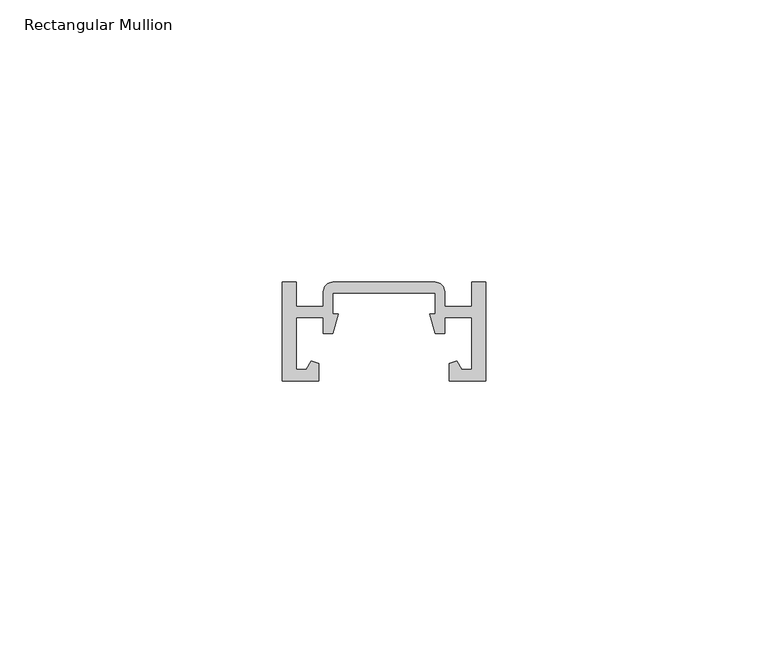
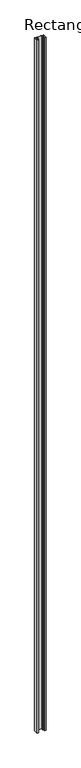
"""IFC4 building model written with IfcOpenShell, lengths in millimetres: member geometry, Rectangular Mullion : NLRS_21_CWM_drager LD.0195 - rechts_Storax."""

from ifc_helpers import new_model, si_unit, point, frame, frame_2d, origin, place, context, project, spatial, polyline, circle_curve, trimmed, segment, composite_curve, outline, extrude, source, transform, mapped, element, save


def rectangular_mullion_aa1047c5(model_context):
    return source(origin(), model_context, "Body", "SweptSolid", [
        extrude(outline(composite_curve([segment(polyline([(-86.0, -1.0), (-83.5290062, -1.0), (-83.5290062, -5.3142835), (-78.7447259, -5.3142835), (-78.7447259, -2.6869285)]), True, "CONTINUOUS"), segment(trimmed(circle_curve(frame_2d((-77.0577975, -2.6869285)), 1.6869285), [point((-78.7447259, -2.6869285))], [point((-77.0577975, -1.0))], False, "CARTESIAN"), True, "CONTINUOUS"), segment(polyline([(-77.0577975, -1.0), (-58.9422025, -1.0)]), True, "CONTINUOUS"), segment(trimmed(circle_curve(frame_2d((-58.9422025, -2.6869285)), 1.6869285), [point((-58.9422025, -1.0))], [point((-57.2552741, -2.6869285))], False, "CARTESIAN"), True, "CONTINUOUS"), segment(polyline([(-57.2552741, -2.6869285), (-57.2552741, -5.3142835), (-52.4709938, -5.3142835), (-52.4709938, -1.0), (-50.0, -1.0), (-50.0, -18.5), (-56.4409991, -18.5), (-56.4409991, -15.3784461), (-55.1292819, -14.9977014), (-54.2747906, -16.4777239), (-52.4709938, -16.4777239), (-52.4709938, -7.3100862), (-57.2552741, -7.3100862), (-57.2552741, -10.0899542), (-58.9422025, -10.0899542), (-59.9422025, -6.6448186), (-58.9422025, -6.6448186), (-58.9422025, -2.9178188), (-77.0577975, -2.9178188), (-77.0577975, -6.6448186), (-76.0577975, -6.6448186), (-77.0577975, -10.0899542), (-78.7447259, -10.0899542), (-78.7447259, -7.3100862), (-83.5290062, -7.3100862), (-83.5290062, -16.4777239), (-81.7252094, -16.4777239), (-80.8707181, -14.9977014), (-79.5590009, -15.3784461), (-79.5590009, -18.5), (-86.0, -18.5), (-86.0, -1.0)]), True, "CONTINUOUS")], self_intersect=False)), frame((0.0, 0.0, -3000.0), z_axis=(0.0, 0.0, 1.0), x_axis=(1.0, 0.0, 0.0)), (0.0, 0.0, 1.0), 3000.0),
    ])


if __name__ == "__main__":
    model = new_model("IFC4")
    model_context = context("Model", 3, world=origin())
    ifc_project = project(units=[si_unit("LENGTHUNIT", "METRE", prefix="MILLI")], contexts=[model_context])
    site = spatial("IfcSite", under=ifc_project)
    building = spatial("IfcBuilding", under=site)
    placement = place(None, origin())
    rectangular_mullion_shape = rectangular_mullion_aa1047c5(model_context)
    element("IfcMember", 1, ObjectType="Rectangular Mullion : NLRS_21_CWM_drager LD.0195 - rechts_Storax", at=placement, inside=building, context=model_context, shape_type="MappedRepresentation", body=[
        mapped(rectangular_mullion_shape, transform((0.0, 0.0, 0.0), x_axis=(1.0, 0.0, 0.0), y_axis=(0.0, 1.0, 0.0), z_axis=(0.0, 0.0, 1.0))),
    ])
    save(model, "model.ifc")
